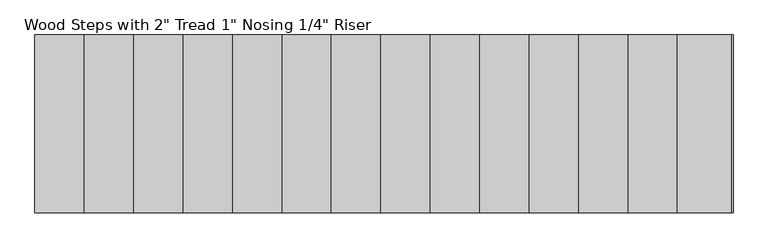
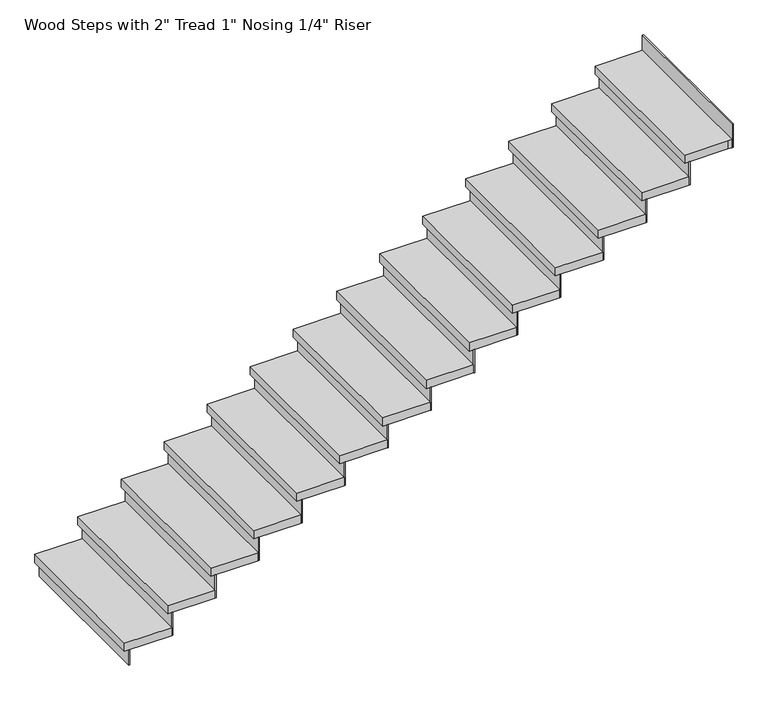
"""IFC4 building model written with IfcOpenShell, lengths in millimetres: stair flight geometry."""

from ifc_helpers import new_model, si_unit, frame, origin, origin_with_axes, place, context, project, spatial, polyline, outline, extrude, source, transform, mapped, element, save


def stair_flight_6c13c02f(model_context):
    return source(origin(), model_context, "Body", "SweptSolid", [
        extrude(outline(polyline([(-50650.1618252, 23464.6076385), (-50656.5118252, 23464.6076385), (-50656.5118252, 24379.0076385), (-50650.1618252, 24379.0076385), (-50650.1618252, 23464.6076385)])), origin_with_axes(), (0.0, 0.0, 1.0), 94.3428571),
        extrude(outline(polyline([(-50402.5118252, 24379.0076385), (-50402.5118252, 23464.6076385), (-50681.9118252, 23464.6076385), (-50681.9118252, 24379.0076385), (-50402.5118252, 24379.0076385)])), frame((0.0, 0.0, 94.3428571), z_axis=(0.0, 0.0, 1.0), x_axis=(1.0, 0.0, 0.0)), (0.0, 0.0, 1.0), 50.8),
        extrude(outline(polyline([(-50396.1618252, 23464.6076385), (-50402.5118252, 23464.6076385), (-50402.5118252, 24379.0076385), (-50396.1618252, 24379.0076385), (-50396.1618252, 23464.6076385)])), frame((0.0, 0.0, 94.3428571), z_axis=(0.0, 0.0, 1.0), x_axis=(1.0, 0.0, 0.0)), (0.0, 0.0, 1.0), 145.1428571),
        extrude(outline(polyline([(-50148.5118252, 24379.0076385), (-50148.5118252, 23464.6076385), (-50427.9118252, 23464.6076385), (-50427.9118252, 24379.0076385), (-50148.5118252, 24379.0076385)])), frame((0.0, 0.0, 239.4857143), z_axis=(0.0, 0.0, 1.0), x_axis=(1.0, 0.0, 0.0)), (0.0, 0.0, 1.0), 50.8),
        extrude(outline(polyline([(-50142.1618252, 23464.6076385), (-50148.5118252, 23464.6076385), (-50148.5118252, 24379.0076385), (-50142.1618252, 24379.0076385), (-50142.1618252, 23464.6076385)])), frame((0.0, 0.0, 239.4857143), z_axis=(0.0, 0.0, 1.0), x_axis=(1.0, 0.0, 0.0)), (0.0, 0.0, 1.0), 145.1428571),
        extrude(outline(polyline([(-49894.5118252, 24379.0076385), (-49894.5118252, 23464.6076385), (-50173.9118252, 23464.6076385), (-50173.9118252, 24379.0076385), (-49894.5118252, 24379.0076385)])), frame((0.0, 0.0, 384.6285714), z_axis=(0.0, 0.0, 1.0), x_axis=(1.0, 0.0, 0.0)), (0.0, 0.0, 1.0), 50.8),
        extrude(outline(polyline([(-49888.1618252, 23464.6076385), (-49894.5118252, 23464.6076385), (-49894.5118252, 24379.0076385), (-49888.1618252, 24379.0076385), (-49888.1618252, 23464.6076385)])), frame((0.0, 0.0, 384.6285714), z_axis=(0.0, 0.0, 1.0), x_axis=(1.0, 0.0, 0.0)), (0.0, 0.0, 1.0), 145.1428571),
        extrude(outline(polyline([(-49640.5118252, 24379.0076385), (-49640.5118252, 23464.6076385), (-49919.9118252, 23464.6076385), (-49919.9118252, 24379.0076385), (-49640.5118252, 24379.0076385)])), frame((0.0, 0.0, 529.7714286), z_axis=(0.0, 0.0, 1.0), x_axis=(1.0, 0.0, 0.0)), (0.0, 0.0, 1.0), 50.8),
        extrude(outline(polyline([(-49634.1618252, 23464.6076385), (-49640.5118252, 23464.6076385), (-49640.5118252, 24379.0076385), (-49634.1618252, 24379.0076385), (-49634.1618252, 23464.6076385)])), frame((0.0, 0.0, 529.7714286), z_axis=(0.0, 0.0, 1.0), x_axis=(1.0, 0.0, 0.0)), (0.0, 0.0, 1.0), 145.1428571),
        extrude(outline(polyline([(-49386.5118252, 24379.0076385), (-49386.5118252, 23464.6076385), (-49665.9118252, 23464.6076385), (-49665.9118252, 24379.0076385), (-49386.5118252, 24379.0076385)])), frame((0.0, 0.0, 674.9142857), z_axis=(0.0, 0.0, 1.0), x_axis=(1.0, 0.0, 0.0)), (0.0, 0.0, 1.0), 50.8),
        extrude(outline(polyline([(-49380.1618252, 23464.6076385), (-49386.5118252, 23464.6076385), (-49386.5118252, 24379.0076385), (-49380.1618252, 24379.0076385), (-49380.1618252, 23464.6076385)])), frame((0.0, 0.0, 674.9142857), z_axis=(0.0, 0.0, 1.0), x_axis=(1.0, 0.0, 0.0)), (0.0, 0.0, 1.0), 145.1428571),
        extrude(outline(polyline([(-49132.5118252, 24379.0076385), (-49132.5118252, 23464.6076385), (-49411.9118252, 23464.6076385), (-49411.9118252, 24379.0076385), (-49132.5118252, 24379.0076385)])), frame((0.0, 0.0, 820.0571429), z_axis=(0.0, 0.0, 1.0), x_axis=(1.0, 0.0, 0.0)), (0.0, 0.0, 1.0), 50.8),
        extrude(outline(polyline([(-49126.1618252, 23464.6076385), (-49132.5118252, 23464.6076385), (-49132.5118252, 24379.0076385), (-49126.1618252, 24379.0076385), (-49126.1618252, 23464.6076385)])), frame((0.0, 0.0, 820.0571429), z_axis=(0.0, 0.0, 1.0), x_axis=(1.0, 0.0, 0.0)), (0.0, 0.0, 1.0), 145.1428571),
        extrude(outline(polyline([(-48878.5118252, 24379.0076385), (-48878.5118252, 23464.6076385), (-49157.9118252, 23464.6076385), (-49157.9118252, 24379.0076385), (-48878.5118252, 24379.0076385)])), frame((0.0, 0.0, 965.2), z_axis=(0.0, 0.0, 1.0), x_axis=(1.0, 0.0, 0.0)), (0.0, 0.0, 1.0), 50.8),
        extrude(outline(polyline([(-48872.1618252, 23464.6076385), (-48878.5118252, 23464.6076385), (-48878.5118252, 24379.0076385), (-48872.1618252, 24379.0076385), (-48872.1618252, 23464.6076385)])), frame((0.0, 0.0, 965.2), z_axis=(0.0, 0.0, 1.0), x_axis=(1.0, 0.0, 0.0)), (0.0, 0.0, 1.0), 145.1428571),
        extrude(outline(polyline([(-48624.5118252, 24379.0076385), (-48624.5118252, 23464.6076385), (-48903.9118252, 23464.6076385), (-48903.9118252, 24379.0076385), (-48624.5118252, 24379.0076385)])), frame((0.0, 0.0, 1110.3428571), z_axis=(0.0, 0.0, 1.0), x_axis=(1.0, 0.0, 0.0)), (0.0, 0.0, 1.0), 50.8),
        extrude(outline(polyline([(-48618.1618252, 23464.6076385), (-48624.5118252, 23464.6076385), (-48624.5118252, 24379.0076385), (-48618.1618252, 24379.0076385), (-48618.1618252, 23464.6076385)])), frame((0.0, 0.0, 1110.3428571), z_axis=(0.0, 0.0, 1.0), x_axis=(1.0, 0.0, 0.0)), (0.0, 0.0, 1.0), 145.1428571),
        extrude(outline(polyline([(-48370.5118252, 24379.0076385), (-48370.5118252, 23464.6076385), (-48649.9118252, 23464.6076385), (-48649.9118252, 24379.0076385), (-48370.5118252, 24379.0076385)])), frame((0.0, 0.0, 1255.4857143), z_axis=(0.0, 0.0, 1.0), x_axis=(1.0, 0.0, 0.0)), (0.0, 0.0, 1.0), 50.8),
        extrude(outline(polyline([(-48364.1618252, 23464.6076385), (-48370.5118252, 23464.6076385), (-48370.5118252, 24379.0076385), (-48364.1618252, 24379.0076385), (-48364.1618252, 23464.6076385)])), frame((0.0, 0.0, 1255.4857143), z_axis=(0.0, 0.0, 1.0), x_axis=(1.0, 0.0, 0.0)), (0.0, 0.0, 1.0), 145.1428571),
        extrude(outline(polyline([(-48116.5118252, 24379.0076385), (-48116.5118252, 23464.6076385), (-48395.9118252, 23464.6076385), (-48395.9118252, 24379.0076385), (-48116.5118252, 24379.0076385)])), frame((0.0, 0.0, 1400.6285714), z_axis=(0.0, 0.0, 1.0), x_axis=(1.0, 0.0, 0.0)), (0.0, 0.0, 1.0), 50.8),
        extrude(outline(polyline([(-48110.1618252, 23464.6076385), (-48116.5118252, 23464.6076385), (-48116.5118252, 24379.0076385), (-48110.1618252, 24379.0076385), (-48110.1618252, 23464.6076385)])), frame((0.0, 0.0, 1400.6285714), z_axis=(0.0, 0.0, 1.0), x_axis=(1.0, 0.0, 0.0)), (0.0, 0.0, 1.0), 145.1428571),
        extrude(outline(polyline([(-47862.5118252, 24379.0076385), (-47862.5118252, 23464.6076385), (-48141.9118252, 23464.6076385), (-48141.9118252, 24379.0076385), (-47862.5118252, 24379.0076385)])), frame((0.0, 0.0, 1545.7714286), z_axis=(0.0, 0.0, 1.0), x_axis=(1.0, 0.0, 0.0)), (0.0, 0.0, 1.0), 50.8),
        extrude(outline(polyline([(-47856.1618252, 23464.6076385), (-47862.5118252, 23464.6076385), (-47862.5118252, 24379.0076385), (-47856.1618252, 24379.0076385), (-47856.1618252, 23464.6076385)])), frame((0.0, 0.0, 1545.7714286), z_axis=(0.0, 0.0, 1.0), x_axis=(1.0, 0.0, 0.0)), (0.0, 0.0, 1.0), 145.1428571),
        extrude(outline(polyline([(-47608.5118252, 24379.0076385), (-47608.5118252, 23464.6076385), (-47887.9118252, 23464.6076385), (-47887.9118252, 24379.0076385), (-47608.5118252, 24379.0076385)])), frame((0.0, 0.0, 1690.9142857), z_axis=(0.0, 0.0, 1.0), x_axis=(1.0, 0.0, 0.0)), (0.0, 0.0, 1.0), 50.8),
        extrude(outline(polyline([(-47602.1618252, 23464.6076385), (-47608.5118252, 23464.6076385), (-47608.5118252, 24379.0076385), (-47602.1618252, 24379.0076385), (-47602.1618252, 23464.6076385)])), frame((0.0, 0.0, 1690.9142857), z_axis=(0.0, 0.0, 1.0), x_axis=(1.0, 0.0, 0.0)), (0.0, 0.0, 1.0), 145.1428571),
        extrude(outline(polyline([(-47354.5118252, 24379.0076385), (-47354.5118252, 23464.6076385), (-47633.9118252, 23464.6076385), (-47633.9118252, 24379.0076385), (-47354.5118252, 24379.0076385)])), frame((0.0, 0.0, 1836.0571429), z_axis=(0.0, 0.0, 1.0), x_axis=(1.0, 0.0, 0.0)), (0.0, 0.0, 1.0), 50.8),
        extrude(outline(polyline([(-47094.1618252, 23464.6076385), (-47100.5118252, 23464.6076385), (-47100.5118252, 24379.0076385), (-47094.1618252, 24379.0076385), (-47094.1618252, 23464.6076385)])), frame((0.0, 0.0, 1981.2), z_axis=(0.0, 0.0, 1.0), x_axis=(1.0, 0.0, 0.0)), (0.0, 0.0, 1.0), 145.1428571),
        extrude(outline(polyline([(-47348.1618252, 23464.6076385), (-47354.5118252, 23464.6076385), (-47354.5118252, 24379.0076385), (-47348.1618252, 24379.0076385), (-47348.1618252, 23464.6076385)])), frame((0.0, 0.0, 1836.0571429), z_axis=(0.0, 0.0, 1.0), x_axis=(1.0, 0.0, 0.0)), (0.0, 0.0, 1.0), 145.1428571),
        extrude(outline(polyline([(-47100.5118252, 24379.0076385), (-47100.5118252, 23464.6076385), (-47125.9118252, 23464.6076385), (-47379.9118252, 23464.6076385), (-47379.9118252, 24379.0076385), (-47125.9118252, 24379.0076385), (-47100.5118252, 24379.0076385)])), frame((0.0, 0.0, 1981.2), z_axis=(0.0, 0.0, 1.0), x_axis=(1.0, 0.0, 0.0)), (0.0, 0.0, 1.0), 50.8),
    ])


if __name__ == "__main__":
    model = new_model("IFC4")
    model_context = context("Model", 3, world=origin())
    ifc_project = project(units=[si_unit("LENGTHUNIT", "METRE", prefix="MILLI")], contexts=[model_context])
    site = spatial("IfcSite", under=ifc_project)
    building = spatial("IfcBuilding", under=site)
    placement = place(None, origin())
    stair_flight_shape = stair_flight_6c13c02f(model_context)
    element("IfcStairFlight", 1, ObjectType="Wood Steps with 2\" Tread 1\" Nosing 1/4\" Riser", at=placement, inside=building, context=model_context, shape_type="MappedRepresentation", body=[
        mapped(stair_flight_shape, transform((0.0, 0.0, 0.0), x_axis=(1.0, 0.0, 0.0), y_axis=(0.0, 1.0, 0.0), z_axis=(0.0, 0.0, 1.0))),
    ])
    save(model, "model.ifc")
